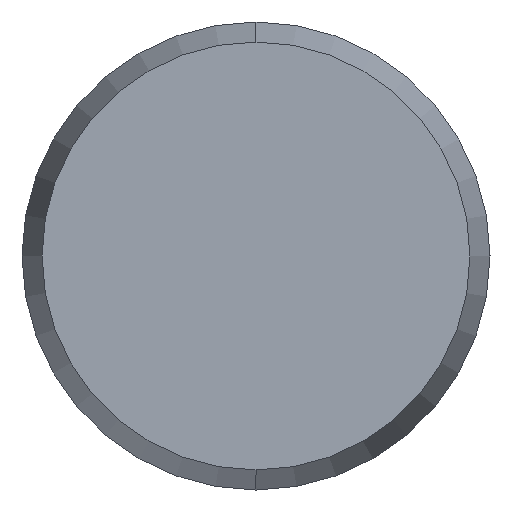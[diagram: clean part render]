
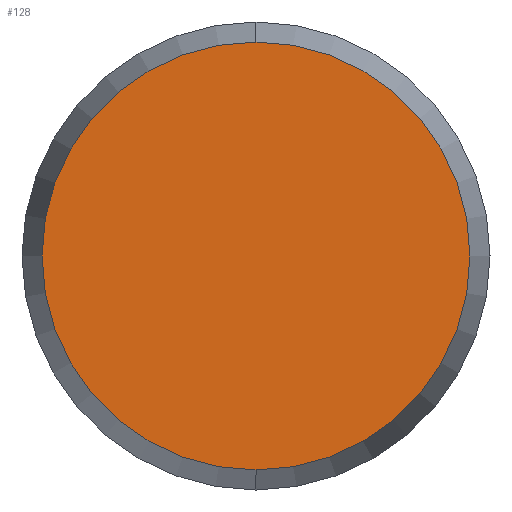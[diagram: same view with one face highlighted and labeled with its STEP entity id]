
A CAD part, left-side view. The second image highlights one B-rep face of the part: STEP entity #128.
In plain terms, the highlighted planar face has unit normal (-1, 0, 0).
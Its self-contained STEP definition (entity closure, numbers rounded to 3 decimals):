
#101 = FACE_OUTER_BOUND ( 'NONE', #237, .T. ) ;
#104 = PLANE ( 'NONE',  #159 ) ;
#114 = DIRECTION ( 'NONE',  ( 0., 0., -1. ) ) ;
#115 = DIRECTION ( 'NONE',  ( 1., 0., 0. ) ) ;
#116 = CARTESIAN_POINT ( 'NONE',  ( -6., 0., 0. ) ) ;
#117 = AXIS2_PLACEMENT_3D ( 'NONE', #116, #115, #114 ) ;
#118 = CIRCLE ( 'NONE', #117, 2.286 ) ;
#122 = EDGE_CURVE ( 'NONE', #222, #221, #118, .T. ) ;
#128 = ADVANCED_FACE ( 'NONE', ( #101 ), #104, .F. ) ;
#143 = CARTESIAN_POINT ( 'NONE',  ( -6., 0., -2.286 ) ) ;
#144 = CARTESIAN_POINT ( 'NONE',  ( -6., 0., 2.286 ) ) ;
#145 = DIRECTION ( 'NONE',  ( 0., 0., -1. ) ) ;
#146 = DIRECTION ( 'NONE',  ( 1., 0., 0. ) ) ;
#147 = CARTESIAN_POINT ( 'NONE',  ( -6., 0., 0. ) ) ;
#148 = AXIS2_PLACEMENT_3D ( 'NONE', #147, #146, #145 ) ;
#149 = CIRCLE ( 'NONE', #148, 2.286 ) ;
#156 = DIRECTION ( 'NONE',  ( 0., 0., -1. ) ) ;
#157 = DIRECTION ( 'NONE',  ( 1., 0., 0. ) ) ;
#158 = CARTESIAN_POINT ( 'NONE',  ( -6., 0., 0. ) ) ;
#159 = AXIS2_PLACEMENT_3D ( 'NONE', #158, #157, #156 ) ;
#220 = EDGE_CURVE ( 'NONE', #221, #222, #149, .T. ) ;
#221 = VERTEX_POINT ( 'NONE', #144 ) ;
#222 = VERTEX_POINT ( 'NONE', #143 ) ;
#237 = EDGE_LOOP ( 'NONE', ( #238, #239 ) ) ;
#238 = ORIENTED_EDGE ( 'NONE', *, *, #220, .F. ) ;
#239 = ORIENTED_EDGE ( 'NONE', *, *, #122, .F. ) ;
